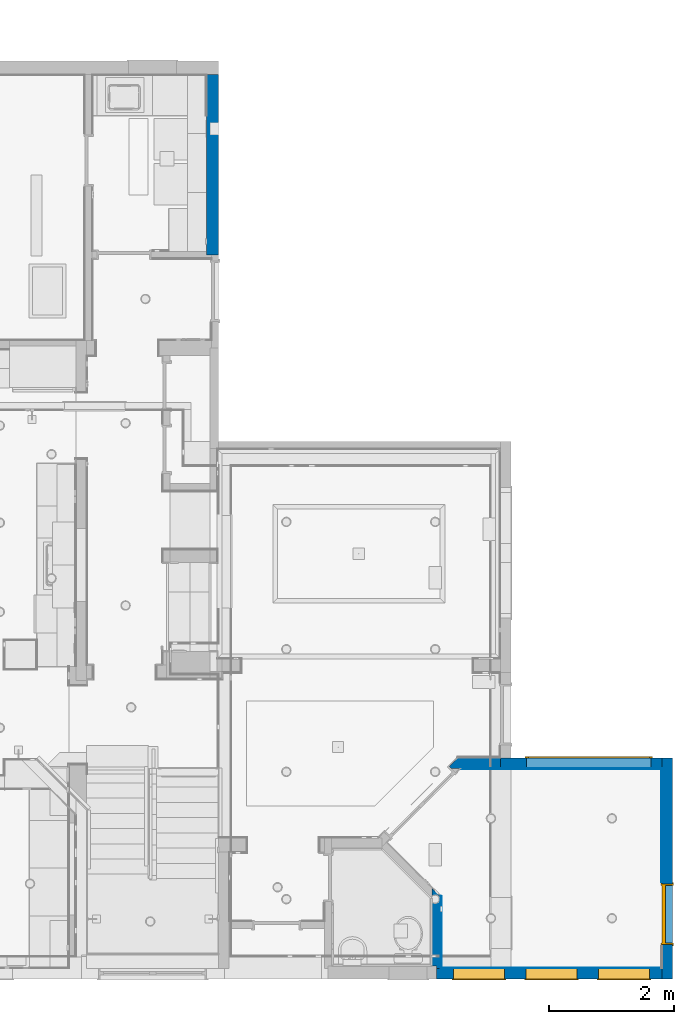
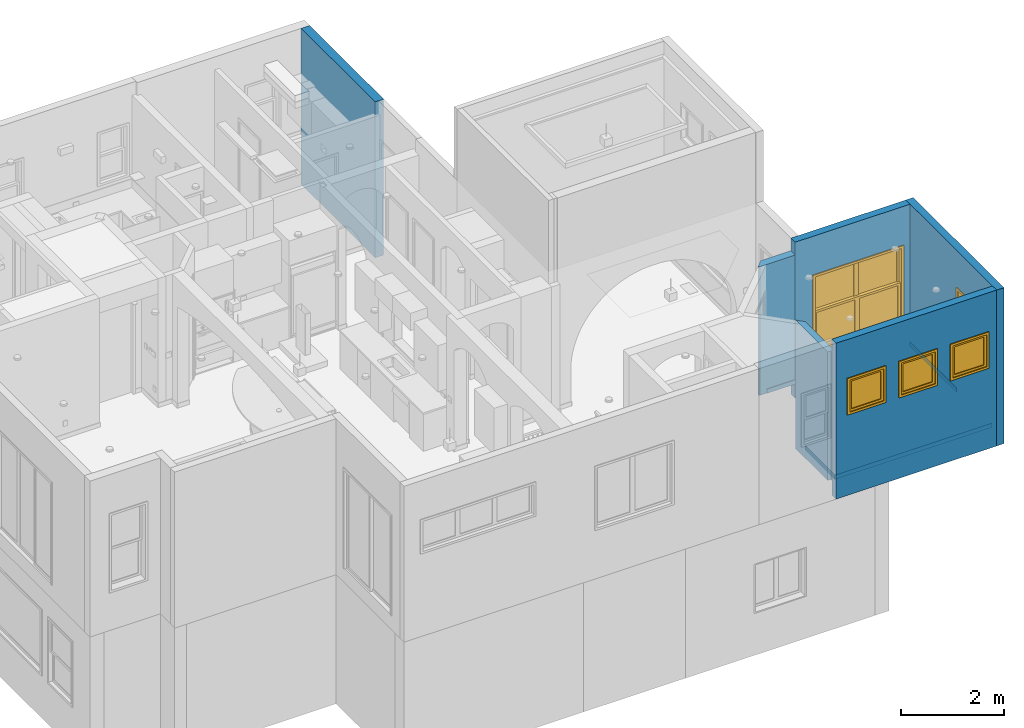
# One storey, part 13 of 60: 10 walls, 4 windows, 1 door, 7 openings.
"""IFC2X3 building model written with IfcOpenShell, lengths in feet."""

from ifc_helpers import new_model, entity, si_unit, converted_unit, direction, frame, frame_2d, origin, origin_2d_with_axis, place, context, subcontext, project, spatial, polyline, rectangle, outline, extrude, source, transform, mapped, material, material_list, layer, layer_set, layer_usage, type_object, type_shapes, element, fill, save


model = new_model("IFC2X3")

# Units and contexts
model_context = context("Model", 3, precision=0.0001, world=origin(), true_north=direction((6.123031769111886e-17, 1.0)))
plan_context = context("Plan", 3, precision=0.0001, world=origin(), true_north=direction((6.123031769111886e-17, 1.0)))
body_context = subcontext(model_context, "Body", "Model", "MODEL_VIEW")
ifc_project = project(units=[converted_unit("LENGTHUNIT", "FOOT", entity("IfcLengthMeasure", 0.3048), si_unit("LENGTHUNIT", "METRE"), dimensions=[1, 0, 0, 0, 0, 0, 0]), converted_unit("AREAUNIT", "SQUARE FOOT", entity("IfcAreaMeasure", 0.09290304), si_unit("AREAUNIT", "SQUARE_METRE"), dimensions=[2, 0, 0, 0, 0, 0, 0]), converted_unit("PLANEANGLEUNIT", "DEGREE", entity("IfcPlaneAngleMeasure", 0.017453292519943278), si_unit("PLANEANGLEUNIT", "RADIAN"), dimensions=[0, 0, 0, 0, 0, 0, 0])], contexts=[model_context, plan_context])

# Site, building, storey
site_placement = place(None, origin())
site = spatial("IfcSite", under=ifc_project, at=site_placement, Name="Default", CompositionType="ELEMENT")
building_placement = place(site_placement, origin())
building = spatial("IfcBuilding", under=site, at=building_placement, CompositionType="ELEMENT")
storey_placement = place(building_placement, origin())
storey = spatial("IfcBuildingStorey", under=building, at=storey_placement, Name="First floor", CompositionType="ELEMENT", Elevation=0.0)

# Wall, opening, door
ifc_material_1 = material(Name="Default New Material")
ifc_layer_1 = layer(ifc_material_1, 0.5416666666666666)
ifc_layer_set_1 = layer_set([ifc_layer_1], Name="Basic Wall:Wall_6.5\"")
ifc_layer_usage_1 = layer_usage(ifc_layer_set_1, "AXIS2", "NEGATIVE", 0.2708333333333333)
wall_type_1 = type_object("IfcWallType", Name="Basic Wall:Wall_6.5\"", PredefinedType="STANDARD", material=ifc_layer_set_1)
wall_1_placement = place(storey_placement, frame((43.85416666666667, 11.56250000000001, 9.541666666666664), z_axis=(0.0, 0.0, 1.0), x_axis=(0.0, -1.0, 0.0)))
wall_1 = element("IfcWallStandardCase", 1, at=wall_1_placement, inside=storey, type_object=wall_type_1, material=ifc_layer_usage_1, Name="Basic Wall:Wall_6.5\"", ObjectType="Basic Wall:Wall_6.5\"", context=body_context, shape_type="SweptSolid", body=[
    extrude(rectangle(XDim=11.56250000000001, YDim=0.5416666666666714, at=frame_2d((5.781250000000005, 7.216449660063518e-16), x_axis=(-1.0, 0.0))), origin(), (0.0, 0.0, 1.0), 12.125),
])
opening_1_placement = place(wall_1_placement, frame((9.770833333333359, 0.2708333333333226, 1.1250000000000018)))
opening_1 = element("IfcOpeningElement", 2, at=opening_1_placement, cuts=wall_1, Name="C_Single Door:3'-0\" X 8'-0\":1", ObjectType="Opening", context=body_context, shape_type="SweptSolid", body=[
    extrude(rectangle(XDim=3.166666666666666, YDim=8.083333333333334, at=frame_2d((4.041666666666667, 1.583333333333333), x_axis=(0.0, 1.0))), frame((0.0, 0.0, 0.0), z_axis=(0.0, -1.0, 0.0), x_axis=(0.0, 0.0, 1.0)), (0.0, 0.0, 1.0), 0.5416666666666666),
])
door_style = type_object("IfcDoorStyle", Name="C_Single Door:3'-0\" X 8'-0\"", ConstructionType="NOTDEFINED", OperationType="SINGLE_SWING_RIGHT", ParameterTakesPrecedence=False, Sizeable=False, material=ifc_material_1)
shared_shape_1 = source(origin(), body_context, "Body", "SweptSolid", [
    extrude(rectangle(XDim=2.999999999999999, YDim=0.16666666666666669, at=origin_2d_with_axis()), frame((1.5833333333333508, 0.08333333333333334, 0.0)), (0.0, 0.0, 1.0), 8.0),
    extrude(outline(polyline([(-3.958333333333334, 1.4999999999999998), (4.041666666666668, 1.4999999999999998), (4.041666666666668, 1.6666666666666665), (-4.125000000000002, 1.6666666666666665), (-4.125000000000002, -1.6666666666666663), (4.041666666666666, -1.6666666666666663), (4.041666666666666, -1.4999999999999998), (-3.958333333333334, -1.4999999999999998), (-3.958333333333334, 1.4999999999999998)])), frame((1.58333333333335, 0.0, 4.041666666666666), z_axis=(0.0, -1.0, 0.0), x_axis=(0.0, 0.0, -1.0)), (0.0, 0.0, 1.0), 0.0625),
    extrude(outline(polyline([(-3.958333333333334, 1.4999999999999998), (4.041666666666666, 1.4999999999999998), (4.041666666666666, 1.6666666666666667), (-4.125, 1.6666666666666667), (-4.125, -1.6666666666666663), (4.041666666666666, -1.6666666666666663), (4.041666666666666, -1.5000000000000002), (-3.958333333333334, -1.5000000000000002), (-3.958333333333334, 1.4999999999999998)])), frame((1.5833333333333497, 0.6041666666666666, 4.041666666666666), z_axis=(0.0, -1.0, 0.0), x_axis=(0.0, 0.0, -1.0)), (0.0, 0.0, 1.0), 0.0625),
    extrude(outline(polyline([(1.4999999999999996, -4.020833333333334), (1.5833333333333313, -4.020833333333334), (1.5833333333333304, 4.062499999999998), (-1.5833333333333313, 4.0625), (-1.5833333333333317, -4.020833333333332), (-1.5, -4.020833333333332), (-1.5, 3.979166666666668), (1.4999999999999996, 3.979166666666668), (1.4999999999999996, -4.020833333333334)])), frame((1.58333333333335, 0.5416666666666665, 4.020833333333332), z_axis=(0.0, -1.0, 0.0), x_axis=(1.0, 0.0, 0.0)), (0.0, 0.0, 1.0), 0.5416666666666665),
])
type_shapes(door_style, [shared_shape_1])
door_placement = place(opening_1_placement, frame((-3.166666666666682, -0.5416666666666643, 0.0)))
door = element("IfcDoor", 3, at=door_placement, inside=storey, type_object=door_style, material=ifc_material_1, Name="C_Single Door:3'-0\" X 8'-0\"", ObjectType="C_Single Door:3'-0\" X 8'-0\"", OverallHeight=8.083333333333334, OverallWidth=3.166666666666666, context=body_context, shape_type="MappedRepresentation", body=[
    mapped(shared_shape_1, transform((0.0, 0.0, 0.0), scale=1.0)),
])
fill(opening_1, door)

# Wall, openings, windows
ifc_layer_usage_2 = layer_usage(ifc_layer_set_1, "AXIS2", "NEGATIVE", 0.2708333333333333)
wall_2_placement = place(storey_placement, frame((43.58333333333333, 0.27083333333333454, 9.541666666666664), z_axis=(0.0, 0.0, 1.0), x_axis=(-1.0, 0.0, 0.0)))
wall_2 = element("IfcWallStandardCase", 4, at=wall_2_placement, inside=storey, type_object=wall_type_1, material=ifc_layer_usage_2, Name="Basic Wall:Wall_6.5\"", ObjectType="Basic Wall:Wall_6.5\"", context=body_context, shape_type="SweptSolid", body=[
    extrude(rectangle(XDim=11.8125, YDim=0.5416666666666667, at=frame_2d((5.90625, -2.7755575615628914e-17), x_axis=(-1.0, 0.0))), origin(), (0.0, 0.0, 1.0), 12.125),
])
opening_2_placement = place(wall_2_placement, frame((3.333333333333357, 0.2708333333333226, 6.375000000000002)))
opening_2 = element("IfcOpeningElement", 5, at=opening_2_placement, cuts=wall_2, Name="C_Single Window:2'-6\" X 2'-6\":1", ObjectType="Opening", context=body_context, shape_type="SweptSolid", body=[
    extrude(rectangle(XDim=2.666666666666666, YDim=2.666666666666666, at=frame_2d((1.333333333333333, 1.3333333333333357), x_axis=(-1.0, 0.0))), frame((0.0, 0.0, 0.0), z_axis=(0.0, -1.0, 0.0), x_axis=(0.0, 0.0, 1.0)), (0.0, 0.0, 1.0), 0.5416666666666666),
])
opening_3_placement = place(wall_2_placement, frame((7.125000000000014, 0.27083333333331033, 6.375000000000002)))
opening_3 = element("IfcOpeningElement", 6, at=opening_3_placement, cuts=wall_2, Name="C_Single Window:2'-6\" X 2'-6\":1", ObjectType="Opening", context=body_context, shape_type="SweptSolid", body=[
    extrude(rectangle(XDim=2.666666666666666, YDim=2.666666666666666, at=frame_2d((1.333333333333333, 1.3333333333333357), x_axis=(-1.0, 0.0))), frame((0.0, 0.0, 0.0), z_axis=(0.0, -1.0, 0.0), x_axis=(0.0, 0.0, 1.0)), (0.0, 0.0, 1.0), 0.5416666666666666),
])
opening_4_placement = place(wall_2_placement, frame((10.916666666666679, 0.27083333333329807, 6.375000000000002)))
opening_4 = element("IfcOpeningElement", 7, at=opening_4_placement, cuts=wall_2, Name="C_Single Window:2'-6\" X 2'-6\":1", ObjectType="Opening", context=body_context, shape_type="SweptSolid", body=[
    extrude(rectangle(XDim=2.666666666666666, YDim=2.666666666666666, at=frame_2d((1.333333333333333, 1.3333333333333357), x_axis=(-1.0, 0.0))), frame((0.0, 0.0, 0.0), z_axis=(0.0, -1.0, 0.0), x_axis=(0.0, 0.0, 1.0)), (0.0, 0.0, 1.0), 0.5416666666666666),
])
ifc_material_2 = material(Name="Glass")
ifc_material_list = material_list([ifc_material_1, ifc_material_2])
window_style_1 = type_object("IfcWindowStyle", Name="C_Single Window:2'-6\" X 2'-6\"", ConstructionType="NOTDEFINED", OperationType="NOTDEFINED", ParameterTakesPrecedence=False, Sizeable=False, material=ifc_material_list)
shared_shape_2 = source(origin(), body_context, "Body", "SweptSolid", [
    extrude(rectangle(XDim=0.04166666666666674, YDim=0.04166666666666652, at=origin_2d_with_axis()), frame((0.9722222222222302, 0.0833333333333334, 0.24999999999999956), z_axis=(0.0, 0.0, 1.0), x_axis=(-1.0, 0.0, 0.0)), (0.0, 0.0, 1.0), 2.1666666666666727),
    extrude(rectangle(XDim=0.04166666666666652, YDim=0.04166666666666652, at=origin_2d_with_axis()), frame((1.6944444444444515, 0.0833333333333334, 0.24999999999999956), z_axis=(0.0, 0.0, 1.0), x_axis=(-1.0, 0.0, 0.0)), (0.0, 0.0, 1.0), 2.1666666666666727),
    extrude(rectangle(XDim=2.1666666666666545, YDim=0.04166666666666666, at=frame_2d((0.0, -1.3877787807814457e-17), x_axis=(1.0, 0.0))), frame((1.3333333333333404, 0.08333333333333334, 0.951388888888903)), (0.0, 0.0, 1.0), 0.041666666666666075),
    extrude(rectangle(XDim=2.166666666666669, YDim=0.04166666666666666, at=frame_2d((0.0, -1.3877787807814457e-17), x_axis=(1.0, 0.0))), frame((1.3333333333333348, 0.08333333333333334, 1.6736111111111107)), (0.0, 0.0, 1.0), 0.041666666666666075),
    extrude(rectangle(XDim=2.166666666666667, YDim=0.04166666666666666, at=frame_2d((0.0, -1.3877787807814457e-17), x_axis=(1.0, 0.0))), frame((1.333333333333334, 0.08333333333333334, 0.24999999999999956)), (0.0, 0.0, 1.0), 2.1666666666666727),
    extrude(outline(polyline([(-1.2500000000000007, -1.2500000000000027), (1.2500000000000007, -1.2500000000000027), (1.2500000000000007, 1.2500000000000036), (-1.2500000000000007, 1.2500000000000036), (-1.2500000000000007, -1.2500000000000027)]), holes=[polyline([(1.0833333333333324, -1.0833333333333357), (-1.0833333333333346, -1.0833333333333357), (-1.0833333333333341, 1.083333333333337), (1.0833333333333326, 1.083333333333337), (1.0833333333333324, -1.0833333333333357)])]), frame((1.3333333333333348, 0.0, 1.3333333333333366), z_axis=(0.0, 1.0, 0.0), x_axis=(1.0, 0.0, 0.0)), (0.0, 0.0, 1.0), 0.16666666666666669),
    extrude(outline(polyline([(-1.4166666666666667, -1.4166666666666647), (1.4166666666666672, -1.4166666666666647), (1.4166666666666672, 1.4166666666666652), (-1.416666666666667, 1.4166666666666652), (-1.4166666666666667, -1.4166666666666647)]), holes=[polyline([(-1.2500000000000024, -1.2500000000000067), (-1.2500000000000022, 1.2499999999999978), (1.2499999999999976, 1.2499999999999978), (1.2499999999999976, -1.2500000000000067), (-1.2500000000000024, -1.2500000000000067)])]), frame((1.333333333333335, -0.0625, 1.3333333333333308), z_axis=(0.0, 1.0, 0.0), x_axis=(1.0, 0.0, 0.0)), (0.0, 0.0, 1.0), 0.0625),
    extrude(outline(polyline([(-1.3333333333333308, -1.3333333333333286), (1.3333333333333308, -1.3333333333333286), (1.3333333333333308, 1.3333333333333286), (-1.3333333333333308, 1.3333333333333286), (-1.3333333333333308, -1.3333333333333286)]), holes=[polyline([(1.2499999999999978, -1.2499999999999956), (-1.2499999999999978, -1.2499999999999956), (-1.2499999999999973, 1.2499999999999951), (1.249999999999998, 1.2499999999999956), (1.2499999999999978, -1.2499999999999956)])]), frame((1.3333333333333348, 0.0, 1.3333333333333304), z_axis=(0.0, 1.0, 0.0), x_axis=(1.0, 0.0, 0.0)), (0.0, 0.0, 1.0), 0.5416666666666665),
])
type_shapes(window_style_1, [shared_shape_2])
window_1_placement = place(opening_2_placement, frame((0.0, 0.0, 0.0), z_axis=(0.0, 0.0, 1.0), x_axis=(-1.0, 0.0, 0.0)))
window_1 = element("IfcWindow", 8, at=window_1_placement, inside=storey, type_object=window_style_1, material=ifc_material_list, Name="C_Single Window:2'-6\" X 2'-6\"", ObjectType="C_Single Window:2'-6\" X 2'-6\"", OverallHeight=2.666666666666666, OverallWidth=2.6666666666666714, context=body_context, shape_type="MappedRepresentation", body=[
    mapped(shared_shape_2, transform((0.0, 0.0, 0.0), scale=1.0)),
])
fill(opening_2, window_1)
window_2_placement = place(opening_3_placement, frame((0.0, 0.0, 0.0), z_axis=(0.0, 0.0, 1.0), x_axis=(-1.0, 0.0, 0.0)))
window_2 = element("IfcWindow", 9, at=window_2_placement, inside=storey, type_object=window_style_1, material=ifc_material_list, Name="C_Single Window:2'-6\" X 2'-6\"", ObjectType="C_Single Window:2'-6\" X 2'-6\"", OverallHeight=2.666666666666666, OverallWidth=2.6666666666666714, context=body_context, shape_type="MappedRepresentation", body=[
    mapped(shared_shape_2, transform((0.0, 0.0, 0.0), scale=1.0)),
])
fill(opening_3, window_2)
window_3_placement = place(opening_4_placement, frame((0.0, 0.0, 0.0), z_axis=(0.0, 0.0, 1.0), x_axis=(-1.0, 0.0, 0.0)))
window_3 = element("IfcWindow", 10, at=window_3_placement, inside=storey, type_object=window_style_1, material=ifc_material_list, Name="C_Single Window:2'-6\" X 2'-6\"", ObjectType="C_Single Window:2'-6\" X 2'-6\"", OverallHeight=2.666666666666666, OverallWidth=2.6666666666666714, context=body_context, shape_type="MappedRepresentation", body=[
    mapped(shared_shape_2, transform((0.0, 0.0, 0.0), scale=1.0)),
])
fill(opening_4, window_3)

# Wall, opening, window
ifc_layer_usage_3 = layer_usage(ifc_layer_set_1, "AXIS2", "POSITIVE", -0.2708333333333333)
wall_3_placement = place(storey_placement, frame((43.58333333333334, 11.291666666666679, 9.541666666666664), z_axis=(0.0, 0.0, 1.0), x_axis=(-1.0, 0.0, 0.0)))
wall_3 = element("IfcWallStandardCase", 11, at=wall_3_placement, inside=storey, type_object=wall_type_1, material=ifc_layer_usage_3, Name="Basic Wall:Wall_6.5\"", ObjectType="Basic Wall:Wall_6.5\"", context=body_context, shape_type="SweptSolid", body=[
    extrude(rectangle(XDim=8.45833333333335, YDim=0.5416666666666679, at=frame_2d((4.229166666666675, 2.7755575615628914e-17), x_axis=(-1.0, 0.0))), origin(), (0.0, 0.0, 1.0), 12.125),
])
opening_5_placement = place(wall_3_placement, frame((7.083333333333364, 0.2708333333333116, 3.20833333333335)))
opening_5 = element("IfcOpeningElement", 12, at=opening_5_placement, cuts=wall_3, Name="C_Double Window Guilotine:6'-4\" X 5'-8\":1", ObjectType="Opening", context=body_context, shape_type="SweptSolid", body=[
    extrude(rectangle(XDim=6.499999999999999, YDim=5.833333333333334, at=frame_2d((2.916666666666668, 3.25), x_axis=(0.0, -1.0))), frame((0.0, 0.0, 0.0), z_axis=(0.0, -1.0, 0.0), x_axis=(0.0, 0.0, 1.0)), (0.0, 0.0, 1.0), 0.5416666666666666),
])
window_style_2 = type_object("IfcWindowStyle", Name="C_Double Window Guilotine:6'-4\" X 5'-8\"", ConstructionType="NOTDEFINED", OperationType="NOTDEFINED", ParameterTakesPrecedence=False, Sizeable=False, material=ifc_material_list)
shared_shape_3 = source(origin(), body_context, "Body", "SweptSolid", [
    extrude(outline(polyline([(-1.5833333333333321, -1.4583333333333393), (1.5833333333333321, -1.4583333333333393), (1.5833333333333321, 1.4583333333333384), (-1.5833333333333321, 1.4583333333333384), (-1.5833333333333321, -1.4583333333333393)]), holes=[polyline([(-1.4166666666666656, -1.2916666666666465), (-1.4166666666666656, 1.2916666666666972), (1.416666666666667, 1.2916666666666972), (1.416666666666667, -1.2916666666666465), (-1.4166666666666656, -1.2916666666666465)])]), frame((1.666666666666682, 0.41666666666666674, 4.291666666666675), z_axis=(0.0, -1.0, 0.0), x_axis=(-1.0, 0.0, 0.0)), (0.0, 0.0, 1.0), 0.16666666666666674),
    extrude(rectangle(XDim=0.04166666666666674, YDim=0.04166666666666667, at=frame_2d((0.0, 6.938893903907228e-18), x_axis=(1.0, 0.0))), frame((2.138888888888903, 0.3333333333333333, 3.0)), (0.0, 0.0, 1.0), 2.583333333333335),
    extrude(rectangle(XDim=0.04166666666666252, YDim=0.04166666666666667, at=frame_2d((0.0, 6.938893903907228e-18), x_axis=(1.0, 0.0))), frame((1.1944444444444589, 0.3333333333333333, 3.0)), (0.0, 0.0, 1.0), 2.5833333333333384),
    extrude(rectangle(XDim=2.833333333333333, YDim=0.04166666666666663, at=frame_2d((1.1102230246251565e-16, 0.0), x_axis=(1.0, 0.0))), frame((1.6666666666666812, 0.3333333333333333, 3.0)), (0.0, 0.0, 1.0), 2.5833333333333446),
    extrude(rectangle(XDim=2.8333333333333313, YDim=0.04166666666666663, at=frame_2d((-1.1102230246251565e-16, 0.0), x_axis=(1.0, 0.0))), frame((1.6666666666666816, 0.16666666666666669, 1.951388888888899)), (0.0, 0.0, 1.0), 0.04166666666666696),
    extrude(rectangle(XDim=2.833333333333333, YDim=0.04166666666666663, at=origin_2d_with_axis()), frame((1.6666666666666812, 0.16666666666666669, 1.0902777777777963)), (0.0, 0.0, 1.0), 0.04166666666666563),
    extrude(rectangle(XDim=0.04166666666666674, YDim=0.04166666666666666, at=frame_2d((-1.1102230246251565e-16, 0.0), x_axis=(1.0, 0.0))), frame((2.138888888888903, 0.16666666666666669, 0.24999999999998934)), (0.0, 0.0, 1.0), 2.5833333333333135),
    extrude(rectangle(XDim=0.04166666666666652, YDim=0.04166666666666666, at=frame_2d((2.220446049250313e-16, 0.0), x_axis=(1.0, 0.0))), frame((1.1944444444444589, 0.16666666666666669, 0.24999999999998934)), (0.0, 0.0, 1.0), 2.5833333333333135),
    extrude(rectangle(XDim=2.8333333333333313, YDim=0.04166666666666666, at=frame_2d((0.0, -1.3877787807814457e-17), x_axis=(1.0, 0.0))), frame((1.6666666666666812, 0.1666666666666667, 0.24999999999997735)), (0.0, 0.0, 1.0), 2.583333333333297),
    extrude(outline(polyline([(-1.4583333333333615, -1.583333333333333), (1.4583333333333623, -1.583333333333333), (1.4583333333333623, 1.5833333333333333), (-1.4583333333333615, 1.5833333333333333), (-1.4583333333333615, -1.583333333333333)]), holes=[polyline([(-1.2916666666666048, 1.4166666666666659), (1.2916666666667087, 1.4166666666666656), (1.2916666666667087, -1.416666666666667), (-1.2916666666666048, -1.416666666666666), (-1.2916666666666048, 1.4166666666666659)])]), frame((1.666666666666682, 0.25, 1.541666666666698), z_axis=(0.0, -1.0, 0.0), x_axis=(0.0, 0.0, -1.0)), (0.0, 0.0, 1.0), 0.16666666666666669),
    extrude(rectangle(XDim=2.8333333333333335, YDim=0.04166666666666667, at=frame_2d((1.1102230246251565e-16, 6.938893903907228e-18), x_axis=(1.0, 0.0))), frame((1.6666666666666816, 0.3333333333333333, 4.701388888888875)), (0.0, 0.0, 1.0), 0.04166666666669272),
    extrude(rectangle(XDim=2.833333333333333, YDim=0.04166666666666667, at=frame_2d((-1.1102230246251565e-16, 6.938893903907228e-18), x_axis=(1.0, 0.0))), frame((1.6666666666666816, 0.3333333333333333, 3.8402777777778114)), (0.0, 0.0, 1.0), 0.04166666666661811),
    extrude(outline(polyline([(-1.5833333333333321, -1.4583333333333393), (1.5833333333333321, -1.4583333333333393), (1.5833333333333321, 1.4583333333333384), (-1.5833333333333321, 1.4583333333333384), (-1.5833333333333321, -1.4583333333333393)]), holes=[polyline([(-1.416666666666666, -1.2916666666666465), (-1.416666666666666, 1.2916666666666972), (1.416666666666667, 1.2916666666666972), (1.416666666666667, -1.2916666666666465), (-1.416666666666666, -1.2916666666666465)])]), frame((4.83333333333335, 0.41666666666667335, 4.291666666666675), z_axis=(0.0, -1.0, 0.0), x_axis=(-1.0, 0.0, 0.0)), (0.0, 0.0, 1.0), 0.16666666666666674),
    extrude(rectangle(XDim=0.04166666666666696, YDim=0.041666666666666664, at=frame_2d((0.0, -3.469446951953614e-18), x_axis=(1.0, 0.0))), frame((5.305555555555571, 0.3333333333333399, 3.0)), (0.0, 0.0, 1.0), 2.583333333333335),
    extrude(rectangle(XDim=0.04166666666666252, YDim=0.041666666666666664, at=frame_2d((0.0, -3.469446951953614e-18), x_axis=(1.0, 0.0))), frame((4.361111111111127, 0.3333333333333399, 3.0)), (0.0, 0.0, 1.0), 2.5833333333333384),
    extrude(rectangle(XDim=2.8333333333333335, YDim=0.04166666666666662, at=frame_2d((2.220446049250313e-16, 3.469446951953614e-18), x_axis=(1.0, 0.0))), frame((4.833333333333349, 0.3333333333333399, 3.0)), (0.0, 0.0, 1.0), 2.5833333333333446),
    extrude(rectangle(XDim=2.8333333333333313, YDim=0.04166666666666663, at=origin_2d_with_axis()), frame((4.83333333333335, 0.1666666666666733, 1.951388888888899)), (0.0, 0.0, 1.0), 0.04166666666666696),
    extrude(rectangle(XDim=2.833333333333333, YDim=0.04166666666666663, at=origin_2d_with_axis()), frame((4.833333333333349, 0.1666666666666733, 1.0902777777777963)), (0.0, 0.0, 1.0), 0.04166666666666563),
    extrude(rectangle(XDim=0.04166666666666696, YDim=0.04166666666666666, at=origin_2d_with_axis()), frame((5.305555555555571, 0.1666666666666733, 0.24999999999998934)), (0.0, 0.0, 1.0), 2.5833333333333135),
    extrude(rectangle(XDim=0.04166666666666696, YDim=0.04166666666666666, at=frame_2d((-1.1102230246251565e-16, 0.0), x_axis=(1.0, 0.0))), frame((4.361111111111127, 0.1666666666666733, 0.24999999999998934)), (0.0, 0.0, 1.0), 2.5833333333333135),
    extrude(rectangle(XDim=2.8333333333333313, YDim=0.04166666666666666, at=origin_2d_with_axis()), frame((4.833333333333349, 0.1666666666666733, 0.24999999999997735)), (0.0, 0.0, 1.0), 2.583333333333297),
    extrude(outline(polyline([(-1.4583333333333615, -1.583333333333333), (1.4583333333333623, -1.583333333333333), (1.4583333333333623, 1.583333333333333), (-1.4583333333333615, 1.583333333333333), (-1.4583333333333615, -1.583333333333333)]), holes=[polyline([(-1.2916666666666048, 1.4166666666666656), (1.2916666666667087, 1.4166666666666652), (1.2916666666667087, -1.416666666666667), (-1.2916666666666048, -1.4166666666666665), (-1.2916666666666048, 1.4166666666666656)])]), frame((4.83333333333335, 0.2500000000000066, 1.541666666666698), z_axis=(0.0, -1.0, 0.0), x_axis=(0.0, 0.0, -1.0)), (0.0, 0.0, 1.0), 0.16666666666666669),
    extrude(rectangle(XDim=2.833333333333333, YDim=0.041666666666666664, at=frame_2d((0.0, -3.469446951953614e-18), x_axis=(1.0, 0.0))), frame((4.83333333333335, 0.3333333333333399, 4.701388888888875)), (0.0, 0.0, 1.0), 0.04166666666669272),
    extrude(rectangle(XDim=2.833333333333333, YDim=0.041666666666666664, at=frame_2d((0.0, -3.469446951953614e-18), x_axis=(1.0, 0.0))), frame((4.83333333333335, 0.3333333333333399, 3.8402777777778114)), (0.0, 0.0, 1.0), 0.04166666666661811),
    extrude(outline(polyline([(-3.3333333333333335, -3.0), (3.3333333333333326, -3.0), (3.3333333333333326, 3.0), (-3.333333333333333, 3.0), (-3.3333333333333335, -3.0)]), holes=[polyline([(-3.166666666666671, -2.833333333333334), (-3.1666666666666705, 2.833333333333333), (3.166666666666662, 2.833333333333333), (3.166666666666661, -2.833333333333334), (-3.166666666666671, -2.833333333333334)])]), frame((3.25000000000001, 0.0, 2.9166666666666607), z_axis=(0.0, -1.0, 0.0), x_axis=(-1.0, 0.0, 0.0)), (0.0, 0.0, 1.0), 0.0625),
    extrude(outline(polyline([(-3.3333333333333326, -3.0), (3.3333333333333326, -3.0), (3.3333333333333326, 3.0), (-3.3333333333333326, 3.0), (-3.3333333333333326, -3.0)]), holes=[polyline([(-3.166666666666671, -2.833333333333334), (-3.1666666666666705, 2.833333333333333), (3.166666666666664, 2.833333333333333), (3.166666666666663, -2.833333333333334), (-3.166666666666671, -2.833333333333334)])]), frame((3.2500000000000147, 0.6041666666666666, 2.9166666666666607), z_axis=(0.0, -1.0, 0.0), x_axis=(-1.0, 0.0, 0.0)), (0.0, 0.0, 1.0), 0.0625),
    extrude(outline(polyline([(-2.9166666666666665, -3.2499999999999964), (2.916666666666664, -3.2499999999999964), (2.9166666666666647, 3.249999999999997), (-2.916666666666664, 3.2499999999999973), (-2.9166666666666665, -3.2499999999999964)]), holes=[polyline([(-2.83333333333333, 3.1666666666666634), (2.83333333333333, 3.1666666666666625), (2.8333333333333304, -3.166666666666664), (-2.8333333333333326, -3.1666666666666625), (-2.83333333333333, 3.1666666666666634)])]), frame((3.25000000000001, 0.5416666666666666, 2.9166666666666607), z_axis=(0.0, -1.0, 0.0), x_axis=(0.0, 0.0, -1.0)), (0.0, 0.0, 1.0), 0.5416666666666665),
])
type_shapes(window_style_2, [shared_shape_3])
window_4_placement = place(opening_5_placement, frame((0.0, 0.0, 0.0), z_axis=(0.0, 0.0, 1.0), x_axis=(-1.0, 0.0, 0.0)))
window_4 = element("IfcWindow", 13, at=window_4_placement, inside=storey, type_object=window_style_2, material=ifc_material_list, Name="C_Double Window Guilotine:6'-4\" X 5'-8\"", ObjectType="C_Double Window Guilotine:6'-4\" X 5'-8\"", OverallHeight=5.833333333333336, OverallWidth=6.5, context=body_context, shape_type="MappedRepresentation", body=[
    mapped(shared_shape_3, transform((0.0, 0.0, 0.0), scale=1.0)),
])
fill(opening_5, window_4)

# Wall, opening
ifc_layer_2 = layer(ifc_material_1, 0.625)
ifc_layer_set_2 = layer_set([ifc_layer_2], Name="Basic Wall:Wall_7.5\"")
ifc_layer_usage_4 = layer_usage(ifc_layer_set_2, "AXIS2", "NEGATIVE", 0.31250000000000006)
wall_type_2 = type_object("IfcWallType", Name="Basic Wall:Wall_7.5\"", PredefinedType="STANDARD", material=ifc_layer_set_2)
wall_4_placement = place(storey_placement, frame((20.06249999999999, 47.33298816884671, 9.541666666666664), z_axis=(0.0, 0.0, 1.0), x_axis=(0.0, -1.0, 0.0)))
wall_4 = element("IfcWallStandardCase", 14, at=wall_4_placement, inside=storey, type_object=wall_type_2, material=ifc_layer_usage_4, Name="Basic Wall:Wall_7.5\"", ObjectType="Basic Wall:Wall_7.5\"", context=body_context, shape_type="SweptSolid", body=[
    extrude(rectangle(XDim=9.437499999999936, YDim=0.625, at=frame_2d((4.718749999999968, -1.3877787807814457e-16), x_axis=(-1.0, 0.0))), origin(), (0.0, 0.0, 1.0), 12.125),
])
opening_6_placement = place(wall_4_placement, frame((47.33298816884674, -20.06249999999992, 4.208333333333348)))
element("IfcOpeningElement", 15, at=opening_6_placement, cuts=wall_4, Name="Basic Wall:Wall_7.5\"", ObjectType="Opening", context=body_context, shape_type="SweptSolid", body=[
    extrude(rectangle(XDim=0.5, YDim=0.6666666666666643, at=frame_2d((0.0, -3.552713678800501e-15), x_axis=(1.0, 0.0))), frame((-44.49965483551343, 15.374999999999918, 0.25), z_axis=(0.0, 1.0, 0.0), x_axis=(0.0, 0.0, 1.0)), (0.0, 0.0, 1.0), 10.000000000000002),
])

# Wall
ifc_layer_3 = layer(ifc_material_1, 0.45833333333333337)
ifc_layer_set_3 = layer_set([ifc_layer_3], Name="Basic Wall:Wall_5.5\"")
ifc_layer_usage_5 = layer_usage(ifc_layer_set_3, "AXIS2", "POSITIVE", -0.22916666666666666)
wall_type_3 = type_object("IfcWallType", Name="Basic Wall:Wall_5.5\"", PredefinedType="STANDARD", material=ifc_layer_set_3)
wall_5_placement = place(storey_placement, frame((31.77083333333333, 0.5416666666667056, 10.666666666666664), z_axis=(0.0, 0.0, 1.0), x_axis=(0.0, 1.0, 0.0)))
element("IfcWallStandardCase", 16, at=wall_5_placement, inside=storey, type_object=wall_type_3, material=ifc_layer_usage_5, Name="Basic Wall:Wall_5.5\"", ObjectType="Basic Wall:Wall_5.5\"", context=body_context, shape_type="SweptSolid", body=[
    extrude(outline(polyline([(1.2657544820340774, -1.6361437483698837), (1.9139356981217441, -1.6361437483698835), (1.5389356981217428, -1.2611437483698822), (-0.9734169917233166, 1.2512089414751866), (-1.1354622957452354, 1.0891636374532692), (-1.2238506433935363, 1.177551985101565), (-1.3858959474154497, 1.0155066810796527), (1.2657544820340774, -1.6361437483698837)])), frame((1.6980480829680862, 0.03273809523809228, 0.0), z_axis=(0.0, 0.0, 1.0), x_axis=(0.7071067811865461, 0.707106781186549, 0.0)), (0.0, 0.0, 1.0), 9.999999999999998),
])

# Wall, opening
ifc_layer_4 = layer(ifc_material_1, 0.5625)
ifc_layer_set_4 = layer_set([ifc_layer_4], Name="Basic Wall:Wall_6.75\"")
ifc_layer_usage_6 = layer_usage(ifc_layer_set_4, "AXIS2", "POSITIVE", -0.28125)
wall_type_4 = type_object("IfcWallType", Name="Basic Wall:Wall_6.75\"", PredefinedType="STANDARD", material=ifc_layer_set_4)
wall_6_placement = place(storey_placement, frame((35.12499999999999, 11.30208333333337, 10.666666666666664), z_axis=(0.0, 0.0, 1.0), x_axis=(-1.0, 0.0, 0.0)))
wall_6 = element("IfcWallStandardCase", 17, at=wall_6_placement, inside=storey, type_object=wall_type_4, material=ifc_layer_usage_6, Name="Basic Wall:Wall_6.75\"", ObjectType="Basic Wall:Wall_6.75\"", context=body_context, shape_type="SweptSolid", body=[
    extrude(outline(polyline([(2.212043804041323, -0.2812499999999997), (2.685043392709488, 0.19446317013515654), (2.5977586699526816, 0.2812499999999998), (2.1249999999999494, 0.28125), (0.0, 0.28125), (0.0, -0.28125), (2.212043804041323, -0.2812499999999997)])), origin(), (0.0, 0.0, 1.0), 10.0),
])
opening_7_placement = place(wall_6_placement, frame((35.12499999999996, 11.302083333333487, 0.0)))
element("IfcOpeningElement", 18, at=opening_7_placement, cuts=wall_6, Name="Basic Wall:Wall_6.75\"", ObjectType="Opening", context=body_context, shape_type="SweptSolid", body=[
    extrude(rectangle(XDim=8.083333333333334, YDim=0.45833333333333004, at=frame_2d((-3.164135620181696e-15, -8.881784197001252e-16), x_axis=(0.0, 1.0))), frame((-32.602464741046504, -10.946039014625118, 4.041666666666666), z_axis=(0.7050813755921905, 0.7091264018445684, 0.0), x_axis=(0.7091264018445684, -0.7050813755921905, 0.0)), (0.0, 0.0, 1.0), 4.833333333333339),
])

# Walls
ifc_layer_5 = layer(ifc_material_1, 0.041666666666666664)
ifc_layer_set_5 = layer_set([ifc_layer_5], Name="Basic Wall:Wall Border_T1")
ifc_layer_usage_7 = layer_usage(ifc_layer_set_5, "AXIS2", "POSITIVE", -0.020833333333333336)
wall_type_5 = type_object("IfcWallType", Name="Basic Wall:Wall Border_T1", PredefinedType="STANDARD", material=ifc_layer_set_5)
wall_7_placement = place(storey_placement, frame((33.01732875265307, 11.0, 10.666666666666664)))
element("IfcWallStandardCase", 19, at=wall_7_placement, inside=storey, type_object=wall_type_5, material=ifc_layer_usage_7, Name="Basic Wall:Wall Border_T1", ObjectType="Basic Wall:Wall Border_T1", context=body_context, shape_type="SweptSolid", body=[
    extrude(outline(polyline([(10.524337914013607, -0.020833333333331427), (10.524337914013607, 0.020833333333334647), (0.04142899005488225, 0.02083333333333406), (0.0, -0.02083333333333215), (10.524337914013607, -0.020833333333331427)])), origin(), (0.0, 0.0, 1.0), 0.3333333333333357),
])
ifc_layer_usage_8 = layer_usage(ifc_layer_set_5, "AXIS2", "POSITIVE", -0.020833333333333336)
wall_8_placement = place(storey_placement, frame((43.56250000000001, 11.020833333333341, 10.666666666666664), z_axis=(0.0, 0.0, 1.0), x_axis=(0.0, -1.0, 0.0)))
element("IfcWallStandardCase", 20, at=wall_8_placement, inside=storey, type_object=wall_type_5, material=ifc_layer_usage_8, Name="Basic Wall:Wall Border_T1", ObjectType="Basic Wall:Wall Border_T1", context=body_context, shape_type="SweptSolid", body=[
    extrude(rectangle(XDim=5.979166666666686, YDim=0.041666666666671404, at=frame_2d((2.989583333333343, 2.42861286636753e-17), x_axis=(-1.0, 0.0))), origin(), (0.0, 0.0, 1.0), 0.3333333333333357),
])
ifc_layer_usage_9 = layer_usage(ifc_layer_set_5, "AXIS2", "POSITIVE", -0.020833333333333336)
wall_9_placement = place(storey_placement, frame((43.54166666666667, 0.5625000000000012, 10.666666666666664), z_axis=(0.0, 0.0, 1.0), x_axis=(-1.0, 0.0, 0.0)))
element("IfcWallStandardCase", 21, at=wall_9_placement, inside=storey, type_object=wall_type_5, material=ifc_layer_usage_9, Name="Basic Wall:Wall Border_T1", ObjectType="Basic Wall:Wall Border_T1", context=body_context, shape_type="SweptSolid", body=[
    extrude(rectangle(XDim=11.541666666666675, YDim=0.04166666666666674, at=frame_2d((5.7708333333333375, 0.0), x_axis=(-1.0, 0.0))), origin(), (0.0, 0.0, 1.0), 0.3333333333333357),
])
ifc_layer_usage_10 = layer_usage(ifc_layer_set_5, "AXIS2", "POSITIVE", -0.020833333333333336)
wall_10_placement = place(storey_placement, frame((32.02083333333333, 0.5833333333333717, 10.666666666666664), z_axis=(0.0, 0.0, 1.0), x_axis=(0.0, 1.0, 0.0)))
element("IfcWallStandardCase", 22, at=wall_10_placement, inside=storey, type_object=wall_type_5, material=ifc_layer_usage_10, Name="Basic Wall:Wall Border_T1", ObjectType="Basic Wall:Wall Border_T1", context=body_context, shape_type="SweptSolid", body=[
    extrude(outline(polyline([(3.7255922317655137, -0.020833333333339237), (3.767258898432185, 0.020833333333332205), (3.708333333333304, 0.02083333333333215), (0.0, 0.02083333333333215), (0.0, -0.020833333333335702), (3.7255922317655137, -0.020833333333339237)])), origin(), (0.0, 0.0, 1.0), 0.3333333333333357),
])

save(model, "model.ifc")
